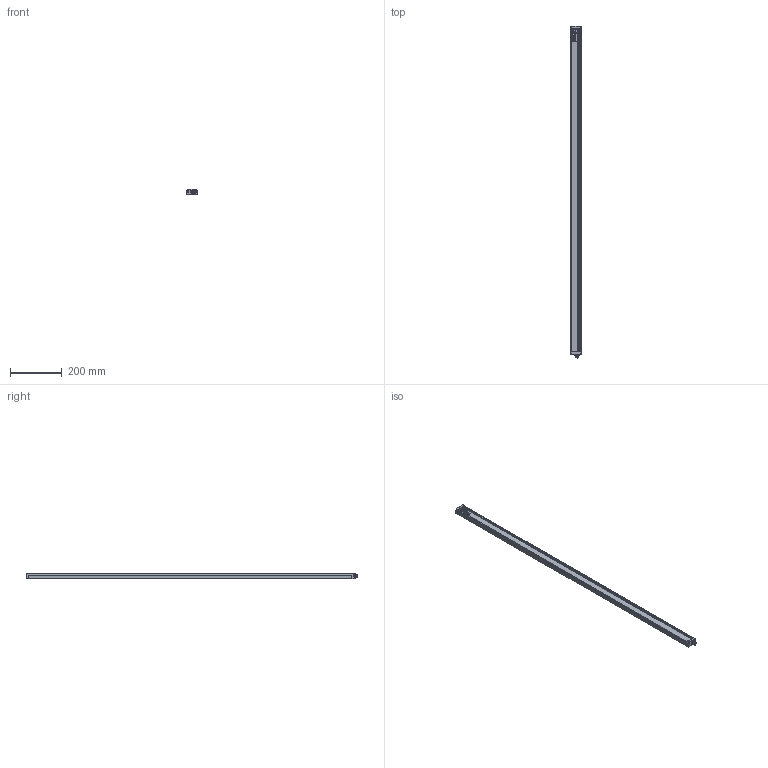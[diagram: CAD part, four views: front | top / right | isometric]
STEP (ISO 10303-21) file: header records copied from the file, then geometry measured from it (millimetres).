
FILE_DESCRIPTION(/* description */ (''),/* implementation_level */ '2;1');
FILE_NAME(/* name */ 'C:\Users\andre\SynologyDrive\Optoscan\Libreria Componenti\00 - Barriere\Polaris sorgente\Barriera Polaris RX\Polaris_1250_RX.stp',/* time_stamp */ '2021-06-04T11:52:27+02:00',/* author */ ('andre'),/* organization */ (''),/* preprocessor_version */ 'ST-DEVELOPER v18',/* originating_system */ 'Autodesk Inventor 2020',/* authorisation */ '');
FILE_SCHEMA (('AUTOMOTIVE_DESIGN { 1 0 10303 214 3 1 1 }'));
Length unit declared in the file: millimetre
Products named in the file (1): Polaris_1250_RX
Bounding box: 40.5 x 1281.3 x 20.75 mm (x, y, z)
Volume: 254286.9 mm3; surface area: 335039.6 mm2
Topology: 1 solids, 1 shells, 700 faces, 1926 edges, 1237 vertices
Faces by surface type: plane 319, cylinder 199, bspline 94, torus 70, sphere 10, cone 8
Full cylindrical faces by diameter (mm): 1 x8, 2.459 x4, 2.5 x4, 3 x4, 3.5 x4, 5.5 x4, 8 x1, 10.5 x2, 11.75 x9, 15.7 x1, 17.5 x1
Entity records: 28472 total; most frequent: CARTESIAN_POINT 10246, ORIENTED_EDGE 3826, DIRECTION 3447, EDGE_CURVE 1913, VERTEX_POINT 1237, AXIS2_PLACEMENT_3D 1211, LINE 1025, VECTOR 1025
